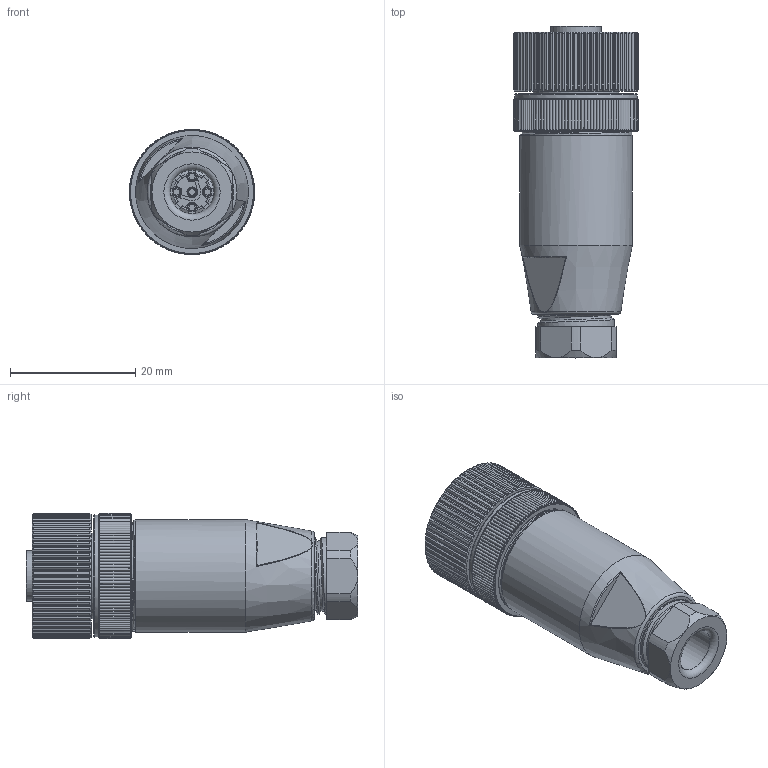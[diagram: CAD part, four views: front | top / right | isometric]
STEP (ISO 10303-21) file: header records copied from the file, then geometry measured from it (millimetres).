
FILE_DESCRIPTION(/* description */ (''),/* implementation_level */ '2;1');
FILE_NAME(/* name */ 'M12-5FS-PG7.stp',/* time_stamp */ '2024-07-04T14:53:42+08:00',/* author */ (''),/* organization */ (''),/* preprocessor_version */ 'ST-DEVELOPER v16.7',/* originating_system */ 'SIEMENS PLM Software NX 12.0',/* authorisation */ '');
FILE_SCHEMA (('AP203_CONFIGURATION_CONTROLLED_3D_DESIGN_OF_MECHANICAL_PARTS_AND_ASSEMBLIES_MIM_LF { 1 0 10303 403 2 1 2}'));
Products named in the file (1): Admi3E98DA3A32o9
Bounding box: 20 x 52.98 x 20 mm (x, y, z)
Volume: 8574.4 mm3; surface area: 10669.3 mm2
Topology: 1 solids, 11 shells, 1270 faces, 3120 edges, 1913 vertices
Faces by surface type: cone 408, cylinder 401, plane 391, torus 25, extrusion 25, bspline 20
Full cylindrical faces by diameter (mm): 1 x15, 1.2 x5, 1.3 x10, 1.4 x5, 1.6 x20, 2 x4, 6.2 x1, 6.8 x1, 7 x1, 8 x1, 8.6 x1, 9.2 x1, 10.2 x1, 10.5 x1, 10.7 x1, 11.1 x7, 12.5 x9, 13.6 x1, 13.8 x1, 14.3 x1, 14.4 x1, 14.7 x1, 15.8 x1, 16.7 x1, 18 x1, 19.6 x1
Entity records: 52089 total; most frequent: CARTESIAN_POINT 23827, ORIENTED_EDGE 5832, DIRECTION 5804, EDGE_CURVE 2916, AXIS2_PLACEMENT_3D 2367, VERTEX_POINT 1832, EDGE_LOOP 1438, ADVANCED_FACE 1252
